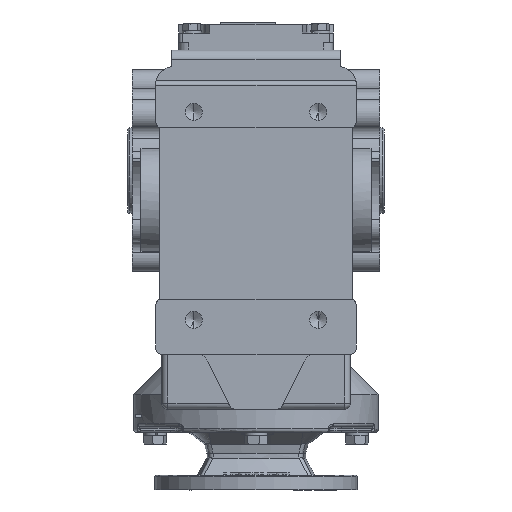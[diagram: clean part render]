
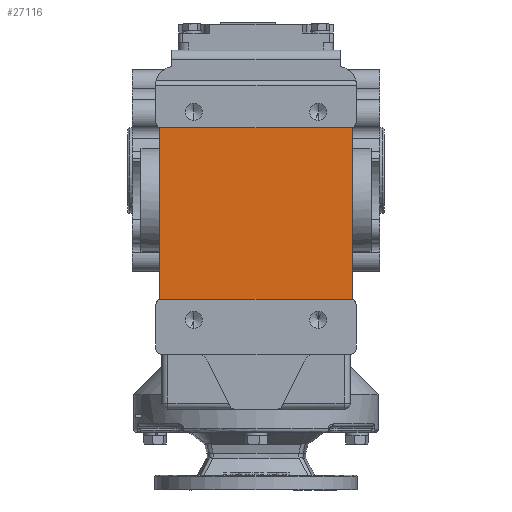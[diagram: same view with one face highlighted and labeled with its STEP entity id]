
A CAD part, front view. The second image highlights one B-rep face of the part: STEP entity #27116.
In plain terms, the highlighted planar face has unit normal (0, -1, 0).
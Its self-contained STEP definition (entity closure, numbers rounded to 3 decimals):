
#209 = LINE ( 'NONE', #30519, #212 ) ;
#212 = VECTOR ( 'NONE', #30481, 1000. ) ;
#5013 = DIRECTION ( 'NONE',  ( 0., 0., -1. ) ) ;
#5015 = DIRECTION ( 'NONE',  ( 0., 1., 0. ) ) ;
#5029 = CARTESIAN_POINT ( 'NONE',  ( -77., -175., -110. ) ) ;
#13432 = FACE_OUTER_BOUND ( 'NONE', #25672, .T. ) ;
#14457 = EDGE_CURVE ( 'NONE', #18214, #18157, #28203, .T. ) ;
#14619 = EDGE_CURVE ( 'NONE', #18105, #18157, #28651, .T. ) ;
#14702 = EDGE_CURVE ( 'NONE', #18162, #18165, #28857, .T. ) ;
#14969 = EDGE_CURVE ( 'NONE', #18252, #18239, #209, .T. ) ;
#17735 = ORIENTED_EDGE ( 'NONE', *, *, #45656, .T. ) ;
#17736 = ORIENTED_EDGE ( 'NONE', *, *, #14969, .F. ) ;
#17740 = ORIENTED_EDGE ( 'NONE', *, *, #45560, .F. ) ;
#17741 = ORIENTED_EDGE ( 'NONE', *, *, #45667, .T. ) ;
#17742 = ORIENTED_EDGE ( 'NONE', *, *, #14702, .F. ) ;
#17743 = ORIENTED_EDGE ( 'NONE', *, *, #45657, .T. ) ;
#17744 = ORIENTED_EDGE ( 'NONE', *, *, #14457, .F. ) ;
#17745 = ORIENTED_EDGE ( 'NONE', *, *, #14619, .T. ) ;
#18105 = VERTEX_POINT ( 'NONE', #48483 ) ;
#18157 = VERTEX_POINT ( 'NONE', #48437 ) ;
#18162 = VERTEX_POINT ( 'NONE', #48432 ) ;
#18165 = VERTEX_POINT ( 'NONE', #48431 ) ;
#18167 = VERTEX_POINT ( 'NONE', #48430 ) ;
#18214 = VERTEX_POINT ( 'NONE', #48378 ) ;
#18239 = VERTEX_POINT ( 'NONE', #48346 ) ;
#18252 = VERTEX_POINT ( 'NONE', #48332 ) ;
#22937 = AXIS2_PLACEMENT_3D ( 'NONE', #35360, #35365, #35366 ) ;
#25672 = EDGE_LOOP ( 'NONE', ( #17736, #17735, #17742, #17741, #17740, #17745, #17744, #17743 ) ) ;
#27116 = ADVANCED_FACE ( 'NONE', ( #13432 ), #35362, .T. ) ;
#28203 = LINE ( 'NONE', #43460, #28209 ) ;
#28209 = VECTOR ( 'NONE', #43483, 1000. ) ;
#28651 = CIRCLE ( 'NONE', #30246, 5. ) ;
#28853 = VECTOR ( 'NONE', #40994, 1000. ) ;
#28857 = LINE ( 'NONE', #40998, #28853 ) ;
#30246 = AXIS2_PLACEMENT_3D ( 'NONE', #5029, #5015, #5013 ) ;
#30481 = DIRECTION ( 'NONE',  ( 0., 0., -1. ) ) ;
#30519 = CARTESIAN_POINT ( 'NONE',  ( 79., -175., 15. ) ) ;
#35360 = CARTESIAN_POINT ( 'NONE',  ( -100., -175., 15. ) ) ;
#35362 = PLANE ( 'NONE',  #22937 ) ;
#35365 = DIRECTION ( 'NONE',  ( 0., -1., 0. ) ) ;
#35366 = DIRECTION ( 'NONE',  ( 0., 0., -1. ) ) ;
#37958 = LINE ( 'NONE', #40021, #37960 ) ;
#37960 = VECTOR ( 'NONE', #40022, 1000. ) ;
#38091 = CIRCLE ( 'NONE', #46796, 5. ) ;
#38093 = CIRCLE ( 'NONE', #46799, 5. ) ;
#38110 = CIRCLE ( 'NONE', #46812, 5. ) ;
#40021 = CARTESIAN_POINT ( 'NONE',  ( -79., -175., 15. ) ) ;
#40022 = DIRECTION ( 'NONE',  ( 0., 0., 1. ) ) ;
#40370 = CARTESIAN_POINT ( 'NONE',  ( 77., -175., 40. ) ) ;
#40371 = DIRECTION ( 'NONE',  ( 0., 1., 0. ) ) ;
#40372 = DIRECTION ( 'NONE',  ( 0., 0., -1. ) ) ;
#40375 = CARTESIAN_POINT ( 'NONE',  ( 77., -175., -110. ) ) ;
#40376 = DIRECTION ( 'NONE',  ( 0., 1., 0. ) ) ;
#40377 = DIRECTION ( 'NONE',  ( 0., 0., -1. ) ) ;
#40395 = CARTESIAN_POINT ( 'NONE',  ( -77., -175., 40. ) ) ;
#40396 = DIRECTION ( 'NONE',  ( 0., 1., 0. ) ) ;
#40397 = DIRECTION ( 'NONE',  ( 0., 0., -1. ) ) ;
#40994 = DIRECTION ( 'NONE',  ( 1., 0., 0. ) ) ;
#40998 = CARTESIAN_POINT ( 'NONE',  ( -82., -175., 35. ) ) ;
#43460 = CARTESIAN_POINT ( 'NONE',  ( -82., -175., -105. ) ) ;
#43483 = DIRECTION ( 'NONE',  ( -1., 0., 0. ) ) ;
#45560 = EDGE_CURVE ( 'NONE', #18105, #18167, #37958, .T. ) ;
#45656 = EDGE_CURVE ( 'NONE', #18252, #18165, #38091, .T. ) ;
#45657 = EDGE_CURVE ( 'NONE', #18214, #18239, #38093, .T. ) ;
#45667 = EDGE_CURVE ( 'NONE', #18162, #18167, #38110, .T. ) ;
#46796 = AXIS2_PLACEMENT_3D ( 'NONE', #40370, #40371, #40372 ) ;
#46799 = AXIS2_PLACEMENT_3D ( 'NONE', #40375, #40376, #40377 ) ;
#46812 = AXIS2_PLACEMENT_3D ( 'NONE', #40395, #40396, #40397 ) ;
#48332 = CARTESIAN_POINT ( 'NONE',  ( 79., -175., 35.417 ) ) ;
#48346 = CARTESIAN_POINT ( 'NONE',  ( 79., -175., -105.417 ) ) ;
#48378 = CARTESIAN_POINT ( 'NONE',  ( 77., -175., -105. ) ) ;
#48430 = CARTESIAN_POINT ( 'NONE',  ( -79., -175., 35.417 ) ) ;
#48431 = CARTESIAN_POINT ( 'NONE',  ( 77., -175., 35. ) ) ;
#48432 = CARTESIAN_POINT ( 'NONE',  ( -77., -175., 35. ) ) ;
#48437 = CARTESIAN_POINT ( 'NONE',  ( -77., -175., -105. ) ) ;
#48483 = CARTESIAN_POINT ( 'NONE',  ( -79., -175., -105.417 ) ) ;
